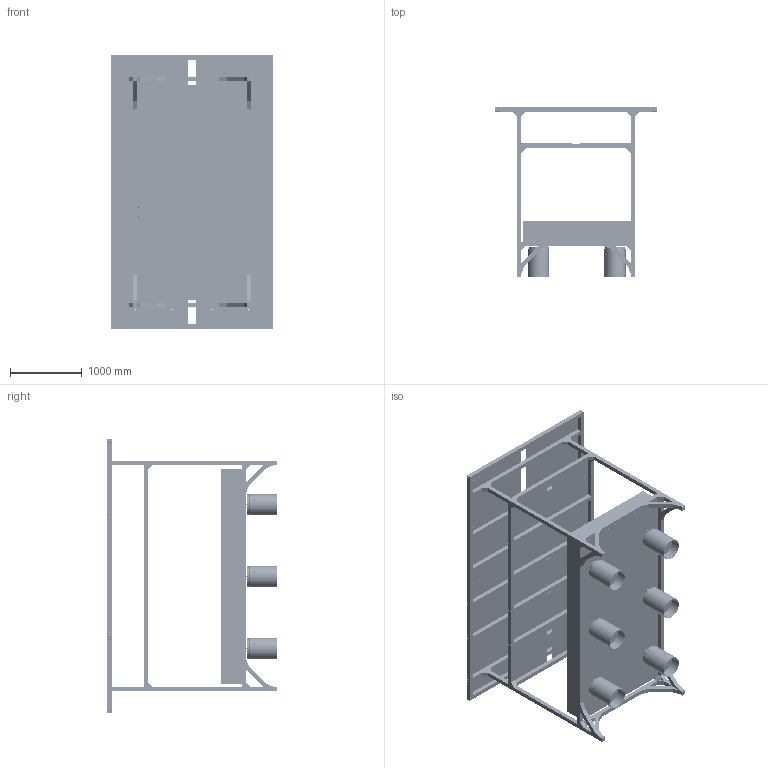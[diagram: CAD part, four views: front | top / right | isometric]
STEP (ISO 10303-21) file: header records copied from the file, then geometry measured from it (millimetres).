
FILE_DESCRIPTION (( 'STEP AP214' ), '1' );
FILE_NAME ('嫖悝す怢+臏倰第 2.STEP', '2026-10-27T17:28:34', ( 'China' ), ( 'P R C' ), 'SwSTEP 2.0', 'SolidWorks 2024', '' );
FILE_SCHEMA (( 'AUTOMOTIVE_DESIGN' ));
Length unit declared in the file: millimetre
Products named in the file (31): 装配体2^光学平台+铝型材 2; TTAS-3015.step; 固定杆; TTAS-2412-2-2 ____A ______________.step; _____2.step; 1610x1070x3铝板; 1280x710; 直角固定零件; 光学平台+铝型材 2; TTAS-2412-3 ____A ____.step; 3层60x60x3230; 580x1070x3铝板; 装配体1^光学平台+铝型材 2; TTAS-2412-5 ____A __________.step; TTAS-2412-4 ____A ______.step; ____(2)_2.step; 3层60x60x2120板支撑杆; 1层60x60x3080; TTAS-2412-1-2 ____A ____.step; TTAS-2412-2-1 ____A ________.step; TTAS-2412-1-1-1 ____A ________.step; TTAS-3015_202412091608050845_2.step; 1层60x60x1520; TTAS-3015_202412091608050845; 3层60x60x1520板支撑杆; 580x710; TTAS-2412-1-1-2 ____A ________.step; 竖杆60x60x2300; TTAS-2412-6 ____A ______.step; 135度角码; 3层60x60x3080
Assembly tree (109 placements, depth 6):
  光学平台+铝型材 2
    竖杆60x60x2300  x4
    1层60x60x1520  x2
    固定杆  x8
    直角固定零件  x21
    1层60x60x3080  x2
    135度角码  x16
    装配体1^光学平台+铝型材 2
      3层60x60x3080  x2
      1层60x60x1520  x2
      直角固定零件  x7
      1280x710  x4
      3层60x60x1520板支撑杆  x4
      580x710  x2
    TTAS-3015_202412091608050845
      TTAS-3015_202412091608050845_2.step
        _____2.step  x6
          ____(2)_2.step
            TTAS-2412-1-1-1 ____A ________.step
            TTAS-2412-1-1-2 ____A ________.step
            TTAS-2412-1-2 ____A ____.step
            TTAS-2412-2-1 ____A ________.step
            TTAS-2412-2-2 ____A ______________.step
            TTAS-2412-3 ____A ____.step
            TTAS-2412-4 ____A ______.step
            TTAS-2412-5 ____A __________.step
            TTAS-2412-6 ____A ______.step
        TTAS-3015.step
    3层60x60x2120板支撑杆  x8
    3层60x60x3230  x2
    装配体2^光学平台+铝型材 2  x2
      1610x1070x3铝板
      580x1070x3铝板
Bounding box: 2240 x 2363 x 3800 mm (x, y, z)
Volume: 1636232323 mm3; surface area: 60738771.8 mm2
Topology: 145 solids, 145 shells, 4954 faces, 11946 edges, 7696 vertices
Faces by surface type: cylinder 3276, plane 1174, cone 456, bspline 36, torus 12
Entity records: 66828 total; most frequent: CARTESIAN_POINT 15447, DIRECTION 11744, ORIENTED_EDGE 9314, AXIS2_PLACEMENT_3D 5014, EDGE_CURVE 4657, VERTEX_POINT 3072, EDGE_LOOP 2977, CIRCLE 2844
